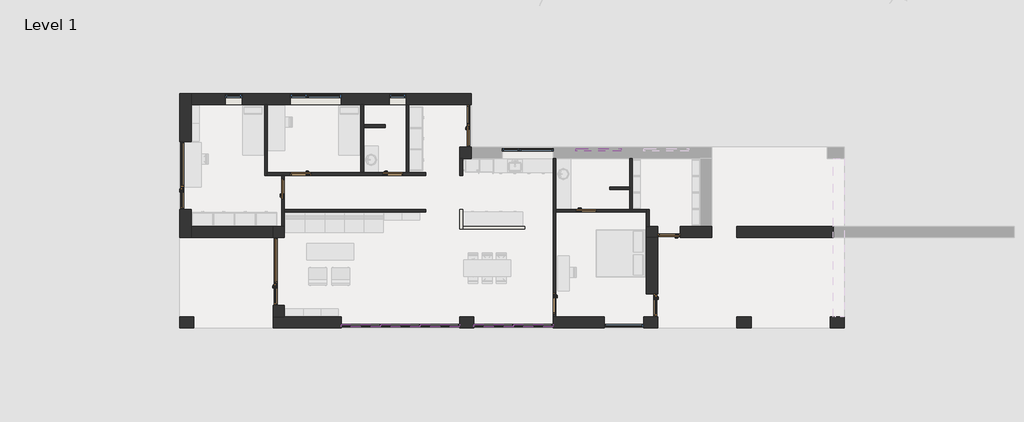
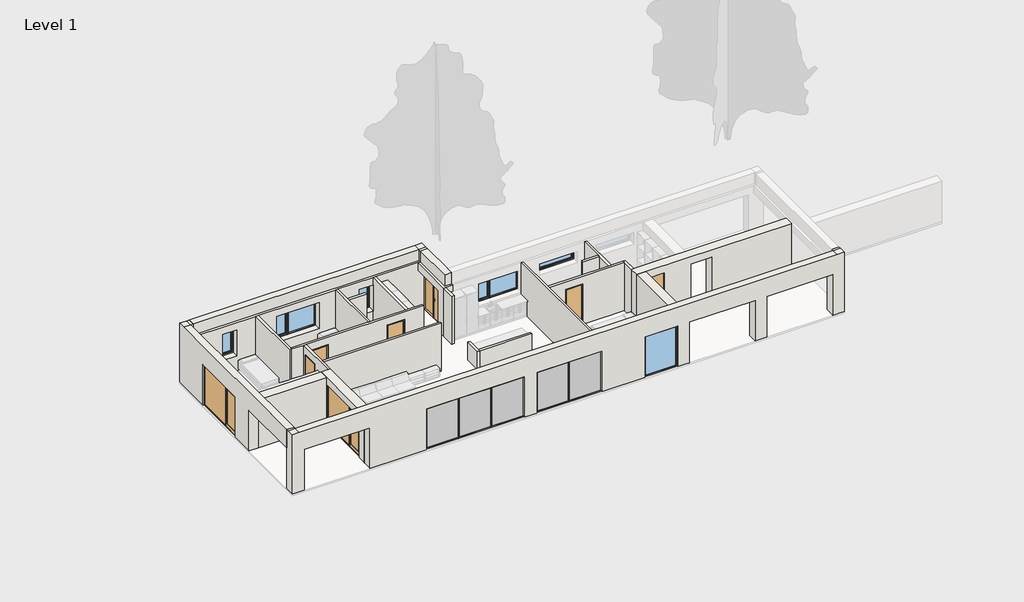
# One storey, part 1 of 2: 23 walls, 17 members, 10 doors, 6 windows, 5 plates.
"""IFC4 building model written with IfcOpenShell, lengths in millimetres."""

from ifc_helpers import new_model, si_unit, origin, origin_with_axes, place, context, project, spatial, polyline, outline, extrude, faceted_brep, transform, mapped, element, save
from components import door_1800x2200_mm_7a9b0269, ext_door_window_assembly_glass_2880x2200_mm_8e24472b, ext_single_flush_out_glass_960x2200_mm_6190eac3, ext_single_flush1_960x2200_mm_7c25dc53, int_single_flush1_900x2200_mm_083ae047, int_single_flush1_900x2200_mm_924e3177, rectangular_mullion_exterior_50x115mm_b31c03e9, rectangular_mullion_exterior_50x115mm_eaa21abb, rectangular_mullion_exterior_50x115mm_593a1a29, system_panel_exterior_glass_22mm_baca3ab9, system_panel_exterior_glass_22mm_266c4f93, fixed_1680x2200_mm_e3bfc0e5, single_light_top_hinged_1920x600_dd11e4f9, single_light_720x1400_mm_50d61ae6, window_assembly_individual_2160x1200_mm_ef5d95c3, window_assembly_individual_2160x1400_mm_9c06a6f2

model = new_model("IFC4")

# Units and contexts
model_context = context("Model", 3, world=origin())
ifc_project = project(units=[si_unit("LENGTHUNIT", "METRE", prefix="MILLI")], contexts=[model_context])

# Site, building, storey
site = spatial("IfcSite", under=ifc_project)
building = spatial("IfcBuilding", under=site)
storey = spatial("IfcBuildingStorey", under=building, Name="Level 1", Elevation=0.0)

# Doors
placement = place(None, origin())
door_1800x2200_mm_shape = door_1800x2200_mm_7a9b0269(model_context)
element("IfcDoor", 1, ObjectType="Ext. Door inw. Window Assembly : 1800x2200 mm", at=placement, inside=storey, context=model_context, shape_type="MappedRepresentation", body=[
    mapped(door_1800x2200_mm_shape, transform((12120.0, 8580.0, 0.0), x_axis=(0.0, -1.0, 0.0), y_axis=(1.0, 0.0, 0.0), z_axis=(0.0, 0.0, 1.0))),
])
ext_door_window_assembly_glass_2880x2200_mm_shape = ext_door_window_assembly_glass_2880x2200_mm_8e24472b(model_context)
element("IfcDoor", 2, ObjectType="Ext. Door Window Assembly - Glass : 2880x2200 mm", at=placement, inside=storey, context=model_context, shape_type="MappedRepresentation", body=[
    mapped(ext_door_window_assembly_glass_2880x2200_mm_shape, transform((4200.0, 2400.0, 0.0), x_axis=(0.0, -1.0, 0.0), y_axis=(1.0, 0.0, 0.0), z_axis=(0.0, 0.0, 1.0))),
])
element("IfcDoor", 3, ObjectType="Ext. Door Window Assembly - Glass : 2880x2200 mm", at=placement, inside=storey, context=model_context, shape_type="MappedRepresentation", body=[
    mapped(ext_door_window_assembly_glass_2880x2200_mm_shape, transform((240.0, 6480.0, 0.0), x_axis=(0.0, -1.0, 0.0), y_axis=(1.0, 0.0, 0.0), z_axis=(0.0, 0.0, 1.0))),
])
ext_single_flush_out_glass_960x2200_mm_shape = ext_single_flush_out_glass_960x2200_mm_6190eac3(model_context)
element("IfcDoor", 4, ObjectType="Ext. Single-Flush out - Glass : 960x2200 mm", at=placement, inside=storey, context=model_context, shape_type="MappedRepresentation", body=[
    mapped(ext_single_flush_out_glass_960x2200_mm_shape, transform((20040.0, 960.0, 0.0), x_axis=(0.0, -1.0, 0.0), y_axis=(1.0, 0.0, 0.0), z_axis=(0.0, 0.0, 1.0))),
])
ext_single_flush1_960x2200_mm_shape = ext_single_flush1_960x2200_mm_7c25dc53(model_context)
element("IfcDoor", 5, ObjectType="Ext. Single-Flush1 : 960x2200 mm", at=placement, inside=storey, context=model_context, shape_type="MappedRepresentation", body=[
    mapped(ext_single_flush1_960x2200_mm_shape, transform((20760.0, 4080.0, 0.0), x_axis=(-1.0, 0.0, 0.0), y_axis=(0.0, -1.0, 0.0), z_axis=(0.0, 0.0, 1.0))),
])
int_single_flush1_900x2200_mm_shape = int_single_flush1_900x2200_mm_083ae047(model_context)
element("IfcDoor", 6, ObjectType="Int. Single-Flush1 : 900x2200 mm", at=placement, inside=storey, context=model_context, shape_type="MappedRepresentation", body=[
    mapped(int_single_flush1_900x2200_mm_shape, transform((4380.0, 5910.0, 0.0), x_axis=(0.0, 1.0, 0.0), y_axis=(-1.0, 0.0, 0.0), z_axis=(0.0, 0.0, 1.0))),
])
element("IfcDoor", 7, ObjectType="Int. Single-Flush1 : 900x2200 mm", at=placement, inside=storey, context=model_context, shape_type="MappedRepresentation", body=[
    mapped(int_single_flush1_900x2200_mm_shape, transform((9030.0, 6540.0, 0.0), x_axis=(1.0, 0.0, 0.0), y_axis=(0.0, 1.0, 0.0), z_axis=(0.0, 0.0, 1.0))),
])
element("IfcDoor", 8, ObjectType="Int. Single-Flush1 : 900x2200 mm", at=placement, inside=storey, context=model_context, shape_type="MappedRepresentation", body=[
    mapped(int_single_flush1_900x2200_mm_shape, transform((17250.0, 4980.0, 0.0), x_axis=(1.0, 0.0, 0.0), y_axis=(0.0, 1.0, 0.0), z_axis=(0.0, 0.0, 1.0))),
])
element("IfcDoor", 9, ObjectType="Int. Single-Flush1 : 900x2200 mm", at=placement, inside=storey, context=model_context, shape_type="MappedRepresentation", body=[
    mapped(int_single_flush1_900x2200_mm_shape, transform((15900.0, 1050.0, 0.0), x_axis=(0.0, -1.0, 0.0), y_axis=(1.0, 0.0, 0.0), z_axis=(0.0, 0.0, 1.0))),
])
int_single_flush1_900x2200_mm_2_shape = int_single_flush1_900x2200_mm_924e3177(model_context)
element("IfcDoor", 10, ObjectType="Int. Single-Flush1 : 900x2200 mm", at=placement, inside=storey, context=model_context, shape_type="MappedRepresentation", body=[
    mapped(int_single_flush1_900x2200_mm_2_shape, transform((5130.0, 6540.0, 0.0), x_axis=(-1.0, 0.0, 0.0), y_axis=(0.0, -1.0, 0.0), z_axis=(0.0, 0.0, 1.0))),
])

# Members
rectangular_mullion_exterior_50x115mm_shape = rectangular_mullion_exterior_50x115mm_b31c03e9(model_context)
element("IfcMember", 11, ObjectType="Rectangular Mullion : Exterior - 50x115mm", at=placement, inside=storey, context=model_context, shape_type="MappedRepresentation", body=[
    mapped(rectangular_mullion_exterior_50x115mm_shape, transform((6840.0, 50.0, 2200.0), x_axis=(0.0, 0.0, 1.0), y_axis=(0.0, 1.0, 0.0), z_axis=(-1.0, 0.0, 0.0))),
])
element("IfcMember", 12, ObjectType="Rectangular Mullion : Exterior - 50x115mm", at=placement, inside=storey, context=model_context, shape_type="MappedRepresentation", body=[
    mapped(rectangular_mullion_exterior_50x115mm_shape, transform((12480.0, 50.0, 2200.0), x_axis=(0.0, 0.0, 1.0), y_axis=(0.0, 1.0, 0.0), z_axis=(-1.0, 0.0, 0.0))),
])
element("IfcMember", 13, ObjectType="Rectangular Mullion : Exterior - 50x115mm", at=placement, inside=storey, context=model_context, shape_type="MappedRepresentation", body=[
    mapped(rectangular_mullion_exterior_50x115mm_shape, transform((11880.0, 50.0, 0.0), x_axis=(0.0, 0.0, -1.0), y_axis=(0.0, 1.0, 0.0), z_axis=(1.0, 0.0, 0.0))),
])
element("IfcMember", 14, ObjectType="Rectangular Mullion : Exterior - 50x115mm", at=placement, inside=storey, context=model_context, shape_type="MappedRepresentation", body=[
    mapped(rectangular_mullion_exterior_50x115mm_shape, transform((15840.0, 50.0, 0.0), x_axis=(0.0, 0.0, -1.0), y_axis=(0.0, 1.0, 0.0), z_axis=(1.0, 0.0, 0.0))),
])
rectangular_mullion_exterior_50x115mm_2_shape = rectangular_mullion_exterior_50x115mm_eaa21abb(model_context)
element("IfcMember", 15, ObjectType="Rectangular Mullion : Exterior - 50x115mm", at=placement, inside=storey, context=model_context, shape_type="MappedRepresentation", body=[
    mapped(rectangular_mullion_exterior_50x115mm_2_shape, transform((8520.0, 50.0, 50.0), x_axis=(-1.0, 0.0, 0.0), y_axis=(0.0, 1.0, 0.0), z_axis=(0.0, 0.0, -1.0))),
])
element("IfcMember", 16, ObjectType="Rectangular Mullion : Exterior - 50x115mm", at=placement, inside=storey, context=model_context, shape_type="MappedRepresentation", body=[
    mapped(rectangular_mullion_exterior_50x115mm_2_shape, transform((10200.0, 50.0, 50.0), x_axis=(-1.0, 0.0, 0.0), y_axis=(0.0, 1.0, 0.0), z_axis=(0.0, 0.0, -1.0))),
])
element("IfcMember", 17, ObjectType="Rectangular Mullion : Exterior - 50x115mm", at=placement, inside=storey, context=model_context, shape_type="MappedRepresentation", body=[
    mapped(rectangular_mullion_exterior_50x115mm_2_shape, transform((14160.0, 50.0, 50.0), x_axis=(-1.0, 0.0, 0.0), y_axis=(0.0, 1.0, 0.0), z_axis=(0.0, 0.0, -1.0))),
])
element("IfcMember", 18, ObjectType="Rectangular Mullion : Exterior - 50x115mm", at=placement, inside=storey, context=model_context, shape_type="MappedRepresentation", body=[
    mapped(rectangular_mullion_exterior_50x115mm_shape, transform((8520.0, 50.0, 0.0), x_axis=(0.0, 0.0, -1.0), y_axis=(0.0, 1.0, 0.0), z_axis=(1.0, 0.0, 0.0))),
])
element("IfcMember", 19, ObjectType="Rectangular Mullion : Exterior - 50x115mm", at=placement, inside=storey, context=model_context, shape_type="MappedRepresentation", body=[
    mapped(rectangular_mullion_exterior_50x115mm_shape, transform((14160.0, 50.0, 0.0), x_axis=(0.0, 0.0, -1.0), y_axis=(0.0, 1.0, 0.0), z_axis=(1.0, 0.0, 0.0))),
])
element("IfcMember", 20, ObjectType="Rectangular Mullion : Exterior - 50x115mm", at=placement, inside=storey, context=model_context, shape_type="MappedRepresentation", body=[
    mapped(rectangular_mullion_exterior_50x115mm_shape, transform((10200.0, 50.0, 0.0), x_axis=(0.0, 0.0, -1.0), y_axis=(0.0, 1.0, 0.0), z_axis=(1.0, 0.0, 0.0))),
])
element("IfcMember", 21, ObjectType="Rectangular Mullion : Exterior - 50x115mm", at=placement, inside=storey, context=model_context, shape_type="MappedRepresentation", body=[
    mapped(rectangular_mullion_exterior_50x115mm_shape, transform((8520.0, 50.0, 2200.0), x_axis=(0.0, 0.0, 1.0), y_axis=(0.0, 1.0, 0.0), z_axis=(-1.0, 0.0, 0.0))),
])
element("IfcMember", 22, ObjectType="Rectangular Mullion : Exterior - 50x115mm", at=placement, inside=storey, context=model_context, shape_type="MappedRepresentation", body=[
    mapped(rectangular_mullion_exterior_50x115mm_shape, transform((10200.0, 50.0, 2200.0), x_axis=(0.0, 0.0, 1.0), y_axis=(0.0, 1.0, 0.0), z_axis=(-1.0, 0.0, 0.0))),
])
element("IfcMember", 23, ObjectType="Rectangular Mullion : Exterior - 50x115mm", at=placement, inside=storey, context=model_context, shape_type="MappedRepresentation", body=[
    mapped(rectangular_mullion_exterior_50x115mm_shape, transform((14160.0, 50.0, 2200.0), x_axis=(0.0, 0.0, 1.0), y_axis=(0.0, 1.0, 0.0), z_axis=(-1.0, 0.0, 0.0))),
])
rectangular_mullion_exterior_50x115mm_3_shape = rectangular_mullion_exterior_50x115mm_593a1a29(model_context)
element("IfcMember", 24, ObjectType="Rectangular Mullion : Exterior - 50x115mm", at=placement, inside=storey, context=model_context, shape_type="MappedRepresentation", body=[
    mapped(rectangular_mullion_exterior_50x115mm_3_shape, transform((11880.0, 50.0, 2150.0), x_axis=(1.0, 0.0, 0.0), y_axis=(0.0, 1.0, 0.0), z_axis=(0.0, 0.0, 1.0))),
])
element("IfcMember", 25, ObjectType="Rectangular Mullion : Exterior - 50x115mm", at=placement, inside=storey, context=model_context, shape_type="MappedRepresentation", body=[
    mapped(rectangular_mullion_exterior_50x115mm_3_shape, transform((15840.0, 50.0, 2150.0), x_axis=(1.0, 0.0, 0.0), y_axis=(0.0, 1.0, 0.0), z_axis=(0.0, 0.0, 1.0))),
])
element("IfcMember", 26, ObjectType="Rectangular Mullion : Exterior - 50x115mm", at=placement, inside=storey, context=model_context, shape_type="MappedRepresentation", body=[
    mapped(rectangular_mullion_exterior_50x115mm_3_shape, transform((6840.0, 50.0, 50.0), x_axis=(-1.0, 0.0, 0.0), y_axis=(0.0, 1.0, 0.0), z_axis=(0.0, 0.0, -1.0))),
])
element("IfcMember", 27, ObjectType="Rectangular Mullion : Exterior - 50x115mm", at=placement, inside=storey, context=model_context, shape_type="MappedRepresentation", body=[
    mapped(rectangular_mullion_exterior_50x115mm_3_shape, transform((12480.0, 50.0, 50.0), x_axis=(-1.0, 0.0, 0.0), y_axis=(0.0, 1.0, 0.0), z_axis=(0.0, 0.0, -1.0))),
])

# Plates
system_panel_exterior_glass_22mm_shape = system_panel_exterior_glass_22mm_baca3ab9(model_context)
element("IfcPlate", 28, ObjectType="System Panel : Exterior - Glass 22mm", at=placement, inside=storey, context=model_context, shape_type="MappedRepresentation", body=[
    mapped(system_panel_exterior_glass_22mm_shape, transform((11027.5, 50.0, 50.0), x_axis=(-1.0, 0.0, 0.0), y_axis=(0.0, -1.0, 0.0), z_axis=(0.0, 0.0, 1.0))),
])
element("IfcPlate", 29, ObjectType="System Panel : Exterior - Glass 22mm", at=placement, inside=storey, context=model_context, shape_type="MappedRepresentation", body=[
    mapped(system_panel_exterior_glass_22mm_shape, transform((7692.5, 50.0, 50.0), x_axis=(-1.0, 0.0, 0.0), y_axis=(0.0, -1.0, 0.0), z_axis=(0.0, 0.0, 1.0))),
])
element("IfcPlate", 30, ObjectType="System Panel : Exterior - Glass 22mm", at=placement, inside=storey, context=model_context, shape_type="MappedRepresentation", body=[
    mapped(system_panel_exterior_glass_22mm_shape, transform((14987.5, 50.0, 50.0), x_axis=(-1.0, 0.0, 0.0), y_axis=(0.0, -1.0, 0.0), z_axis=(0.0, 0.0, 1.0))),
])
element("IfcPlate", 31, ObjectType="System Panel : Exterior - Glass 22mm", at=placement, inside=storey, context=model_context, shape_type="MappedRepresentation", body=[
    mapped(system_panel_exterior_glass_22mm_shape, transform((13332.5, 50.0, 50.0), x_axis=(-1.0, 0.0, 0.0), y_axis=(0.0, -1.0, 0.0), z_axis=(0.0, 0.0, 1.0))),
])
system_panel_exterior_glass_22mm_2_shape = system_panel_exterior_glass_22mm_266c4f93(model_context)
element("IfcPlate", 32, ObjectType="System Panel : Exterior - Glass 22mm", at=placement, inside=storey, context=model_context, shape_type="MappedRepresentation", body=[
    mapped(system_panel_exterior_glass_22mm_2_shape, transform((9360.0, 50.0, 50.0), x_axis=(-1.0, 0.0, 0.0), y_axis=(0.0, -1.0, 0.0), z_axis=(0.0, 0.0, 1.0))),
])

# Walls
element("IfcWall", 33, ObjectType="Generic - 120mm (Interior)", at=placement, inside=storey, context=model_context, shape_type="Brep", body=[
    faceted_brep([(3600.0, 9480.0, 0.0), (3600.0, 6480.0, 0.0), (3600.0, 6480.0, 2600.0), (3600.0, 9480.0, 2600.0), (3720.0, 9480.0, 0.0), (3720.0, 9480.0, 2600.0), (3720.0, 6600.0, 2600.0), (3720.0, 6480.0, 2600.0), (3720.0, 6480.0, 0.0), (3720.0, 6600.0, 0.0)], [[[0, 1, 2, 3]], [[4, 5, 6, 7, 8, 9]], [[1, 0, 4, 9, 8]], [[2, 1, 8, 7]], [[0, 3, 5, 4]], [[3, 2, 7, 6, 5]]]),
])
element("IfcWall", 34, ObjectType="Generic - 120mm (Interior)", at=placement, inside=storey, context=model_context, shape_type="Brep", body=[
    faceted_brep([(10440.0, 6480.0, 0.0), (10440.0, 6480.0, 2600.0), (4440.0, 6480.0, 2600.0), (4320.0, 6480.0, 2600.0), (3720.0, 6480.0, 2600.0), (3720.0, 6480.0, 0.0), (4320.0, 6480.0, 0.0), (4440.0, 6480.0, 0.0), (4680.0, 6480.0, 0.0), (4680.0, 6480.0, 2200.0), (5580.0, 6480.0, 2200.0), (5580.0, 6480.0, 0.0), (8580.0, 6480.0, 0.0), (8580.0, 6480.0, 2200.0), (9480.0, 6480.0, 2200.0), (9480.0, 6480.0, 0.0), (10440.0, 6600.0, 2600.0), (10440.0, 6600.0, 0.0), (9720.0, 6600.0, 0.0), (9600.0, 6600.0, 0.0), (9480.0, 6600.0, 0.0), (9480.0, 6600.0, 2200.0), (8580.0, 6600.0, 2200.0), (8580.0, 6600.0, 0.0), (7800.0, 6600.0, 0.0), (7680.0, 6600.0, 0.0), (5580.0, 6600.0, 0.0), (5580.0, 6600.0, 2200.0), (4680.0, 6600.0, 2200.0), (4680.0, 6600.0, 0.0), (3720.0, 6600.0, 0.0), (3720.0, 6600.0, 2600.0), (7680.0, 6600.0, 2600.0), (7800.0, 6600.0, 2600.0), (9600.0, 6600.0, 2600.0), (9720.0, 6600.0, 2600.0)], [[[0, 1, 2, 3, 4, 5, 6, 7, 8, 9, 10, 11, 12, 13, 14, 15]], [[16, 17, 18, 19, 20, 21, 22, 23, 24, 25, 26, 27, 28, 29, 30, 31, 32, 33, 34, 35]], [[17, 0, 15, 20, 19, 18]], [[5, 30, 29, 8, 7, 6]], [[23, 12, 11, 26, 25, 24]], [[1, 0, 17, 16]], [[5, 4, 31, 30]], [[14, 21, 20, 15]], [[21, 14, 13, 22]], [[22, 13, 12, 23]], [[28, 9, 8, 29]], [[9, 28, 27, 10]], [[10, 27, 26, 11]], [[4, 3, 2, 1, 16, 35, 34, 33, 32, 31]]]),
])
element("IfcWall", 35, ObjectType="Generic - 120mm (Interior)", at=placement, inside=storey, context=model_context, shape_type="Brep", body=[
    faceted_brep([(4440.0, 6480.0, 0.0), (4440.0, 6480.0, 2600.0), (4440.0, 5040.0, 2600.0), (4440.0, 4920.0, 2600.0), (4440.0, 4320.0, 2600.0), (4440.0, 4320.0, 0.0), (4440.0, 4920.0, 0.0), (4440.0, 5040.0, 0.0), (4440.0, 5460.0, 0.0), (4440.0, 5460.0, 2200.0), (4440.0, 6360.0, 2200.0), (4440.0, 6360.0, 0.0), (4320.0, 6480.0, 2600.0), (4320.0, 6480.0, 0.0), (4320.0, 6360.0, 0.0), (4320.0, 6360.0, 2200.0), (4320.0, 5460.0, 2200.0), (4320.0, 5460.0, 0.0), (4320.0, 4320.0, 0.0), (4320.0, 4320.0, 2600.0)], [[[0, 1, 2, 3, 4, 5, 6, 7, 8, 9, 10, 11]], [[12, 13, 14, 15, 16, 17, 18, 19]], [[13, 0, 11, 14]], [[5, 18, 17, 8, 7, 6]], [[1, 0, 13, 12]], [[5, 4, 19, 18]], [[10, 15, 14, 11]], [[15, 10, 9, 16]], [[16, 9, 8, 17]], [[4, 3, 2, 1, 12, 19]]]),
])
element("IfcWall", 36, ObjectType="Generic - 120mm (Interior)", at=placement, inside=storey, context=model_context, shape_type="Brep", body=[
    faceted_brep([(7800.0, 6600.0, 0.0), (7800.0, 8520.0, 0.0), (7800.0, 8640.0, 0.0), (7800.0, 9480.0, 0.0), (7800.0, 9480.0, 2600.0), (7800.0, 8640.0, 2600.0), (7800.0, 8520.0, 2600.0), (7800.0, 6600.0, 2600.0), (7680.0, 6600.0, 0.0), (7680.0, 6600.0, 2600.0), (7680.0, 9480.0, 2600.0), (7680.0, 9480.0, 0.0)], [[[0, 1, 2, 3, 4, 5, 6, 7]], [[8, 9, 10, 11]], [[3, 2, 1, 0, 8, 11]], [[0, 7, 9, 8]], [[4, 3, 11, 10]], [[7, 6, 5, 4, 10, 9]]]),
])
element("IfcWall", 37, ObjectType="Generic - 120mm (Interior)", at=placement, inside=storey, context=model_context, shape_type="Brep", body=[
    faceted_brep([(9720.0, 6600.0, 0.0), (9720.0, 9480.0, 0.0), (9720.0, 9480.0, 2600.0), (9720.0, 6600.0, 2600.0), (9600.0, 6600.0, 0.0), (9600.0, 6600.0, 2600.0), (9600.0, 9480.0, 2600.0), (9600.0, 9480.0, 2200.0), (9600.0, 9480.0, 800.0), (9600.0, 9480.0, 0.0)], [[[0, 1, 2, 3]], [[4, 5, 6, 7, 8, 9]], [[1, 0, 4, 9]], [[0, 3, 5, 4]], [[2, 1, 9, 8, 7, 6]], [[3, 2, 6, 5]]]),
])
element("IfcWall", 38, ObjectType="Generic - 120mm (Interior)", at=placement, inside=storey, context=model_context, shape_type="Brep", body=[
    faceted_brep([(15960.0, 7200.0, 0.0), (15960.0, 7200.0, 2600.0), (15960.0, 5040.0, 2600.0), (15960.0, 4920.0, 2600.0), (15960.0, 480.0, 2600.0), (15960.0, 480.0, 0.0), (15960.0, 600.0, 0.0), (15960.0, 600.0, 2200.0), (15960.0, 1500.0, 2200.0), (15960.0, 1500.0, 0.0), (15960.0, 4920.0, 0.0), (15960.0, 5040.0, 0.0), (15840.0, 7200.0, 2600.0), (15840.0, 7200.0, 2200.0), (15840.0, 7200.0, 1000.0), (15840.0, 7200.0, 0.0), (15840.0, 1500.0, 0.0), (15840.0, 1500.0, 2200.0), (15840.0, 600.0, 2200.0), (15840.0, 600.0, 0.0), (15840.0, 480.0, 0.0), (15840.0, 480.0, 2200.0), (15840.0, 480.0, 2600.0)], [[[0, 1, 2, 3, 4, 5, 6, 7, 8, 9, 10, 11]], [[12, 13, 14, 15, 16, 17, 18, 19, 20, 21, 22]], [[5, 20, 19, 6]], [[15, 0, 11, 10, 9, 16]], [[1, 0, 15, 14, 13, 12]], [[5, 4, 22, 21, 20]], [[18, 7, 6, 19]], [[7, 18, 17, 8]], [[8, 17, 16, 9]], [[4, 3, 2, 1, 12, 22]]]),
])
element("IfcWall", 39, ObjectType="Generic - 120mm (Interior)", at=placement, inside=storey, context=model_context, shape_type="Brep", body=[
    faceted_brep([(19920.0, 4320.0, 0.0), (19920.0, 5040.0, 0.0), (19920.0, 5040.0, 2600.0), (19920.0, 4320.0, 2600.0), (19800.0, 4320.0, 0.0), (19800.0, 4320.0, 2600.0), (19800.0, 4920.0, 2600.0), (19800.0, 5040.0, 2600.0), (19800.0, 5040.0, 0.0), (19800.0, 4920.0, 0.0)], [[[0, 1, 2, 3]], [[4, 5, 6, 7, 8, 9]], [[1, 0, 4, 9, 8]], [[2, 1, 8, 7]], [[0, 3, 5, 4]], [[3, 2, 7, 6, 5]]]),
])
element("IfcWall", 40, ObjectType="Generic - 120mm (Interior)", at=placement, inside=storey, context=model_context, shape_type="Brep", body=[
    faceted_brep([(19800.0, 5040.0, 2600.0), (19800.0, 5040.0, 0.0), (19200.0, 5040.0, 0.0), (19080.0, 5040.0, 0.0), (17700.0, 5040.0, 0.0), (17700.0, 5040.0, 2200.0), (16800.0, 5040.0, 2200.0), (16800.0, 5040.0, 0.0), (15960.0, 5040.0, 0.0), (15960.0, 5040.0, 2600.0), (19080.0, 5040.0, 2600.0), (19200.0, 5040.0, 2600.0), (19800.0, 4920.0, 0.0), (19800.0, 4920.0, 2600.0), (15960.0, 4920.0, 2600.0), (15960.0, 4920.0, 0.0), (16800.0, 4920.0, 0.0), (16800.0, 4920.0, 2200.0), (17700.0, 4920.0, 2200.0), (17700.0, 4920.0, 0.0)], [[[0, 1, 2, 3, 4, 5, 6, 7, 8, 9, 10, 11]], [[12, 13, 14, 15, 16, 17, 18, 19]], [[1, 12, 19, 4, 3, 2]], [[15, 8, 7, 16]], [[1, 0, 13, 12]], [[9, 8, 15, 14]], [[18, 5, 4, 19]], [[5, 18, 17, 6]], [[6, 17, 16, 7]], [[0, 11, 10, 9, 14, 13]]]),
])
element("IfcWall", 41, ObjectType="Generic - 120mm (Interior)", at=placement, inside=storey, context=model_context, shape_type="Brep", body=[
    faceted_brep([(19200.0, 5040.0, 0.0), (19200.0, 7200.0, 0.0), (19200.0, 7200.0, 2600.0), (19200.0, 5040.0, 2600.0), (19080.0, 5040.0, 0.0), (19080.0, 5040.0, 2600.0), (19080.0, 5880.0, 2600.0), (19080.0, 6000.0, 2600.0), (19080.0, 7200.0, 2600.0), (19080.0, 7200.0, 0.0), (19080.0, 6000.0, 0.0), (19080.0, 5880.0, 0.0)], [[[0, 1, 2, 3]], [[4, 5, 6, 7, 8, 9, 10, 11]], [[1, 0, 4, 11, 10, 9]], [[0, 3, 5, 4]], [[2, 1, 9, 8]], [[3, 2, 8, 7, 6, 5]]]),
])
element("IfcWall", 42, ObjectType="Generic - 120mm (Interior)", at=placement, inside=storey, context=model_context, shape_type="SweptSolid", body=[
    extrude(outline(polyline([(18240.0, 6000.0), (19080.0, 6000.0), (19080.0, 5880.0), (18240.0, 5880.0), (18240.0, 6000.0)])), origin_with_axes(), (0.0, 0.0, 1.0), 2600.0),
])
element("IfcWall", 43, ObjectType="Generic - 120mm (Interior)", at=placement, inside=storey, context=model_context, shape_type="SweptSolid", body=[
    extrude(outline(polyline([(8720.0, 8520.0), (7800.0, 8520.0), (7800.0, 8640.0), (8720.0, 8640.0), (8720.0, 8520.0)])), origin_with_axes(), (0.0, 0.0, 1.0), 2600.0),
])
element("IfcWall", 44, ObjectType="Generic - 120mm (Interior)", at=placement, inside=storey, context=model_context, shape_type="SweptSolid", body=[
    extrude(outline(polyline([(10440.0, 4920.0), (4440.0, 4920.0), (4440.0, 5040.0), (10440.0, 5040.0), (10440.0, 4920.0)])), origin_with_axes(), (0.0, 0.0, 1.0), 2600.0),
])
element("IfcWall", 45, ObjectType="Generic - 120mm (Interior)", at=placement, inside=storey, context=model_context, shape_type="Brep", body=[
    faceted_brep([(11880.0, 5040.0, 0.0), (11880.0, 4200.0, 0.0), (11880.0, 4200.0, 1000.0), (11880.0, 5040.0, 1000.0), (12000.0, 5040.0, 0.0), (12000.0, 5040.0, 1000.0), (12000.0, 4320.0, 1000.0), (12000.0, 4200.0, 1000.0), (12000.0, 4200.0, 0.0), (12000.0, 4320.0, 0.0)], [[[0, 1, 2, 3]], [[4, 5, 6, 7, 8, 9]], [[1, 0, 4, 9, 8]], [[3, 2, 7, 6, 5]], [[0, 3, 5, 4]], [[2, 1, 8, 7]]]),
])
element("IfcWall", 46, ObjectType="Generic - 120mm (Interior)", at=placement, inside=storey, context=model_context, shape_type="SweptSolid", body=[
    extrude(outline(polyline([(14640.0, 4200.0), (12000.0, 4200.0), (12000.0, 4320.0), (14640.0, 4320.0), (14640.0, 4200.0)])), origin_with_axes(), (0.0, 0.0, 1.0), 1000.0),
])
element("IfcWall", 47, ObjectType="Generic - 120mm (Interior)", at=placement, inside=storey, context=model_context, shape_type="SweptSolid", body=[
    extrude(outline(polyline([(11880.0, 6480.0), (11880.0, 7200.0), (12000.0, 7200.0), (12000.0, 6480.0), (11880.0, 6480.0)])), origin_with_axes(), (0.0, 0.0, 1.0), 2600.0),
])
element("IfcWall", 48, ObjectType="Generic - 480mm (Exterior)", at=placement, inside=storey, context=model_context, shape_type="Brep", body=[
    faceted_brep([(480.0, 9960.0, 0.0), (480.0, 9960.0, 3200.0), (480.0, 9600.0, 3200.0), (480.0, 9600.0, 2600.0), (480.0, 9480.0, 2600.0), (480.0, 4320.0, 2600.0), (480.0, 3840.0, 2600.0), (480.0, 480.0, 2600.0), (480.0, 480.0, 2200.0), (480.0, 3840.0, 2200.0), (480.0, 3840.0, 0.0), (480.0, 4320.0, 0.0), (480.0, 5040.0, 0.0), (480.0, 5040.0, 2200.0), (480.0, 7920.0, 2200.0), (480.0, 7920.0, 0.0), (480.0, 9480.0, 0.0), (0.0, 9960.0, 3200.0), (0.0, 9960.0, 0.0), (0.0, 7920.0, 0.0), (0.0, 7920.0, 2200.0), (0.0, 5040.0, 2200.0), (0.0, 5040.0, 0.0), (0.0, 3840.0, 0.0), (0.0, 3840.0, 2200.0), (0.0, 480.0, 2200.0), (0.0, 480.0, 3200.0), (0.0, 9600.0, 3200.0), (360.0, 9960.0, 3200.0), (360.0, 480.0, 2600.0), (360.0, 480.0, 3200.0), (360.0, 9600.0, 3200.0), (360.0, 9600.0, 2600.0)], [[[0, 1, 2, 3, 4, 5, 6, 7, 8, 9, 10, 11, 12, 13, 14, 15, 16]], [[17, 18, 19, 20, 21, 22, 23, 24, 25, 26, 27]], [[1, 0, 18, 17, 28]], [[21, 13, 12, 22]], [[13, 21, 20, 14]], [[14, 20, 19, 15]], [[18, 0, 16, 15, 19]], [[10, 23, 22, 12, 11]], [[9, 8, 25, 24]], [[10, 9, 24, 23]], [[8, 7, 29, 30, 26, 25]], [[3, 2, 31, 32]], [[27, 26, 30, 31]], [[31, 30, 29, 32]], [[2, 1, 28, 31]], [[17, 27, 31, 28]], [[3, 32, 29, 7, 6, 5, 4]]]),
])
element("IfcWall", 49, ObjectType="Generic - 480mm (Exterior)", at=placement, inside=storey, context=model_context, shape_type="Brep", body=[
    faceted_brep([(480.0, 9480.0, 0.0), (3600.0, 9480.0, 0.0), (3720.0, 9480.0, 0.0), (7680.0, 9480.0, 0.0), (7800.0, 9480.0, 0.0), (9600.0, 9480.0, 0.0), (9720.0, 9480.0, 0.0), (12360.0, 9480.0, 0.0), (12360.0, 9480.0, 2200.0), (12360.0, 9480.0, 3200.0), (12000.0, 9480.0, 3200.0), (12000.0, 9480.0, 2600.0), (11880.0, 9480.0, 2600.0), (9720.0, 9480.0, 2600.0), (9600.0, 9480.0, 2600.0), (7800.0, 9480.0, 2600.0), (7680.0, 9480.0, 2600.0), (3720.0, 9480.0, 2600.0), (3600.0, 9480.0, 2600.0), (480.0, 9480.0, 2600.0), (8880.0, 9480.0, 800.0), (8880.0, 9480.0, 2200.0), (9600.0, 9480.0, 2200.0), (9600.0, 9480.0, 800.0), (6840.0, 9480.0, 2200.0), (6840.0, 9480.0, 800.0), (4680.0, 9480.0, 800.0), (4680.0, 9480.0, 2200.0), (1920.0, 9480.0, 800.0), (1920.0, 9480.0, 2200.0), (2640.0, 9480.0, 2200.0), (2640.0, 9480.0, 800.0), (12360.0, 9960.0, 0.0), (480.0, 9960.0, 0.0), (480.0, 9960.0, 3200.0), (12000.0, 9960.0, 3200.0), (12360.0, 9960.0, 3200.0), (8880.0, 9960.0, 2200.0), (8880.0, 9960.0, 800.0), (9600.0, 9960.0, 800.0), (9600.0, 9960.0, 2200.0), (6840.0, 9960.0, 800.0), (6840.0, 9960.0, 2200.0), (4680.0, 9960.0, 2200.0), (4680.0, 9960.0, 800.0), (1920.0, 9960.0, 2200.0), (1920.0, 9960.0, 800.0), (2640.0, 9960.0, 800.0), (2640.0, 9960.0, 2200.0), (480.0, 9600.0, 2600.0), (480.0, 9600.0, 3200.0), (12360.0, 9600.0, 3200.0), (12000.0, 9600.0, 2600.0), (12000.0, 9600.0, 3200.0)], [[[0, 1, 2, 3, 4, 5, 6, 7, 8, 9, 10, 11, 12, 13, 14, 15, 16, 17, 18, 19], [20, 21, 22, 23], [24, 25, 26, 27], [28, 29, 30, 31]], [[32, 33, 34, 35, 36], [37, 38, 39, 40], [41, 42, 43, 44], [45, 46, 47, 48]], [[7, 6, 5, 4, 3, 2, 1, 0, 33, 32]], [[0, 19, 49, 50, 34, 33]], [[9, 8, 7, 32, 36, 51]], [[20, 38, 37, 21]], [[39, 23, 22, 40]], [[38, 20, 23, 39]], [[41, 25, 24, 42]], [[43, 27, 26, 44]], [[25, 41, 44, 26]], [[28, 46, 45, 29]], [[47, 31, 30, 48]], [[46, 28, 31, 47]], [[40, 22, 21, 37]], [[27, 43, 42, 24]], [[48, 30, 29, 45]], [[50, 49, 52, 53]], [[9, 51, 53, 10]], [[10, 53, 52, 11]], [[34, 50, 53, 35]], [[51, 36, 35, 53]], [[19, 18, 17, 16, 15, 14, 13, 12, 11, 52, 49]]]),
])
element("IfcWall", 50, ObjectType="Generic - 480mm (Exterior)", at=placement, inside=storey, context=model_context, shape_type="Brep", body=[
    faceted_brep([(11880.0, 7200.0, 0.0), (11880.0, 7200.0, 2600.0), (11880.0, 9480.0, 2600.0), (11880.0, 9480.0, 2200.0), (11880.0, 7680.0, 2200.0), (11880.0, 7680.0, 0.0), (12360.0, 7200.0, 2600.0), (12360.0, 7200.0, 0.0), (12360.0, 7680.0, 0.0), (12360.0, 7680.0, 2200.0), (12360.0, 9480.0, 2200.0), (12360.0, 9480.0, 3200.0), (12360.0, 7680.0, 3200.0), (12360.0, 7320.0, 3200.0), (12360.0, 7320.0, 2600.0), (12000.0, 9480.0, 3200.0), (12000.0, 9480.0, 2600.0), (12000.0, 7200.0, 2600.0), (12000.0, 7320.0, 2600.0), (12000.0, 7320.0, 3200.0)], [[[0, 1, 2, 3, 4, 5]], [[6, 7, 8, 9, 10, 11, 12, 13, 14]], [[7, 0, 5, 8]], [[15, 11, 10, 3, 2, 16]], [[4, 9, 8, 5]], [[9, 4, 3, 10]], [[1, 0, 7, 6, 17]], [[15, 16, 18, 19]], [[11, 15, 19, 13, 12]], [[13, 19, 18, 14]], [[16, 2, 1, 17, 6, 14, 18]]]),
])
element("IfcWall", 51, ObjectType="Generic - 480mm (Exterior)", at=placement, inside=storey, context=model_context, shape_type="Brep", body=[
    faceted_brep([(28200.0, 480.0, 0.0), (27600.0, 480.0, 0.0), (27600.0, 480.0, 2200.0), (24240.0, 480.0, 2200.0), (24240.0, 480.0, 0.0), (23640.0, 480.0, 0.0), (23640.0, 480.0, 2200.0), (20280.0, 480.0, 2200.0), (20280.0, 480.0, 0.0), (19680.0, 480.0, 0.0), (19680.0, 480.0, 2200.0), (18000.0, 480.0, 2200.0), (18000.0, 480.0, 0.0), (15960.0, 480.0, 0.0), (15840.0, 480.0, 0.0), (15840.0, 480.0, 2200.0), (12480.0, 480.0, 2200.0), (12480.0, 480.0, 0.0), (11880.0, 480.0, 0.0), (11880.0, 480.0, 2200.0), (6840.0, 480.0, 2200.0), (6840.0, 480.0, 0.0), (4440.0, 480.0, 0.0), (3960.0, 480.0, 0.0), (3960.0, 480.0, 2200.0), (600.0, 480.0, 2200.0), (600.0, 480.0, 0.0), (0.0, 480.0, 0.0), (0.0, 480.0, 2200.0), (0.0, 480.0, 3200.0), (360.0, 480.0, 3200.0), (360.0, 480.0, 2600.0), (480.0, 480.0, 2600.0), (3960.0, 480.0, 2600.0), (4440.0, 480.0, 2600.0), (15840.0, 480.0, 2600.0), (15960.0, 480.0, 2600.0), (19800.0, 480.0, 2600.0), (20280.0, 480.0, 2600.0), (27720.0, 480.0, 2600.0), (27840.0, 480.0, 2600.0), (27840.0, 480.0, 3200.0), (28200.0, 480.0, 3200.0), (28200.0, 480.0, 2200.0), (27600.0, 0.0, 0.0), (28200.0, 0.0, 0.0), (28200.0, 0.0, 3200.0), (27840.0, 0.0, 3200.0), (360.0, 0.0, 3200.0), (0.0, 0.0, 3200.0), (0.0, 0.0, 0.0), (600.0, 0.0, 0.0), (600.0, 0.0, 2200.0), (3960.0, 0.0, 2200.0), (3960.0, 0.0, 0.0), (6840.0, 0.0, 0.0), (6840.0, 0.0, 2200.0), (11880.0, 0.0, 2200.0), (11880.0, 0.0, 0.0), (12480.0, 0.0, 0.0), (12480.0, 0.0, 2200.0), (15840.0, 0.0, 2200.0), (15840.0, 0.0, 0.0), (18000.0, 0.0, 0.0), (18000.0, 0.0, 2200.0), (19680.0, 0.0, 2200.0), (19680.0, 0.0, 0.0), (20280.0, 0.0, 0.0), (20280.0, 0.0, 2200.0), (23640.0, 0.0, 2200.0), (23640.0, 0.0, 0.0), (24240.0, 0.0, 0.0), (24240.0, 0.0, 2200.0), (27600.0, 0.0, 2200.0), (28200.0, 360.0, 3200.0), (0.0, 360.0, 3200.0), (27840.0, 360.0, 2600.0), (27840.0, 360.0, 3200.0), (360.0, 360.0, 2600.0), (360.0, 360.0, 3200.0)], [[[0, 1, 2, 3, 4, 5, 6, 7, 8, 9, 10, 11, 12, 13, 14, 15, 16, 17, 18, 19, 20, 21, 22, 23, 24, 25, 26, 27, 28, 29, 30, 31, 32, 33, 34, 35, 36, 37, 38, 39, 40, 41, 42, 43]], [[44, 45, 46, 47, 48, 49, 50, 51, 52, 53, 54, 55, 56, 57, 58, 59, 60, 61, 62, 63, 64, 65, 66, 67, 68, 69, 70, 71, 72, 73]], [[65, 10, 9, 66]], [[10, 65, 64, 11]], [[11, 64, 63, 12]], [[57, 19, 18, 58]], [[19, 57, 56, 20]], [[20, 56, 55, 21]], [[61, 15, 14, 62]], [[15, 61, 60, 16]], [[16, 60, 59, 17]], [[1, 0, 45, 44]], [[2, 1, 44, 73]], [[3, 2, 73, 72]], [[4, 3, 72, 71]], [[5, 4, 71, 70]], [[6, 5, 70, 69]], [[7, 6, 69, 68]], [[9, 8, 67, 66]], [[12, 63, 62, 14, 13]], [[58, 18, 17, 59]], [[23, 22, 21, 55, 54]], [[25, 24, 53, 52]], [[26, 25, 52, 51]], [[27, 26, 51, 50]], [[24, 23, 54, 53]], [[8, 7, 68, 67]], [[0, 43, 42, 74, 46, 45]], [[29, 28, 27, 50, 49, 75]], [[41, 40, 76, 77]], [[77, 76, 78, 79]], [[42, 41, 77, 74]], [[47, 46, 74, 77]], [[29, 75, 79, 30]], [[30, 79, 78, 31]], [[77, 79, 48, 47]], [[75, 49, 48, 79]], [[76, 40, 39, 38, 37, 36, 35, 34, 33, 32, 31, 78]]]),
])
element("IfcWall", 52, ObjectType="Generic - 480mm (Exterior)", at=placement, inside=storey, context=model_context, shape_type="Brep", body=[
    faceted_brep([(4440.0, 4320.0, 0.0), (4440.0, 4320.0, 2600.0), (4440.0, 480.0, 2600.0), (4440.0, 480.0, 0.0), (4440.0, 960.0, 0.0), (4440.0, 960.0, 2200.0), (4440.0, 3840.0, 2200.0), (4440.0, 3840.0, 0.0), (3960.0, 4320.0, 2600.0), (3960.0, 4320.0, 0.0), (3960.0, 3840.0, 0.0), (3960.0, 3840.0, 2200.0), (3960.0, 960.0, 2200.0), (3960.0, 960.0, 0.0), (3960.0, 480.0, 0.0), (3960.0, 480.0, 2200.0), (3960.0, 480.0, 2600.0), (3960.0, 3840.0, 2600.0), (4320.0, 4320.0, 0.0), (4320.0, 4320.0, 2600.0)], [[[0, 1, 2, 3, 4, 5, 6, 7]], [[8, 9, 10, 11, 12, 13, 14, 15, 16, 17]], [[9, 18, 0, 7, 10]], [[3, 14, 13, 4]], [[1, 0, 18, 9, 8, 19]], [[12, 5, 4, 13]], [[5, 12, 11, 6]], [[6, 11, 10, 7]], [[14, 3, 2, 16, 15]], [[16, 2, 1, 19, 8, 17]]]),
])
element("IfcWall", 53, ObjectType="Generic - 480mm (Exterior)", at=placement, inside=storey, context=model_context, shape_type="Brep", body=[
    faceted_brep([(3960.0, 4320.0, 0.0), (480.0, 4320.0, 0.0), (480.0, 4320.0, 2600.0), (3960.0, 4320.0, 2600.0), (3960.0, 3840.0, 0.0), (3960.0, 3840.0, 2600.0), (480.0, 3840.0, 2600.0), (480.0, 3840.0, 2200.0), (480.0, 3840.0, 0.0)], [[[0, 1, 2, 3]], [[4, 5, 6, 7, 8]], [[1, 0, 4, 8]], [[0, 3, 5, 4]], [[1, 8, 7, 6, 2]], [[3, 2, 6, 5]]]),
])
element("IfcWall", 54, ObjectType="Generic - 480mm (Exterior)", at=placement, inside=storey, context=model_context, shape_type="Brep", body=[
    faceted_brep([(19800.0, 3840.0, 2600.0), (19800.0, 3840.0, 0.0), (19800.0, 1440.0, 0.0), (19800.0, 1440.0, 2200.0), (19800.0, 480.0, 2200.0), (19800.0, 480.0, 2600.0), (20280.0, 3840.0, 0.0), (20280.0, 3840.0, 2200.0), (20280.0, 3840.0, 2600.0), (20280.0, 480.0, 2600.0), (20280.0, 480.0, 2200.0), (20280.0, 1440.0, 2200.0), (20280.0, 1440.0, 0.0)], [[[0, 1, 2, 3, 4, 5]], [[6, 7, 8, 9, 10, 11, 12]], [[1, 6, 12, 2]], [[1, 0, 8, 7, 6]], [[3, 11, 10, 4]], [[11, 3, 2, 12]], [[9, 5, 4, 10]], [[0, 5, 9, 8]]]),
])
element("IfcWall", 55, ObjectType="Generic - 480mm (Exterior)", at=placement, inside=storey, context=model_context, shape_type="Brep", body=[
    faceted_brep([(19800.0, 4320.0, 0.0), (19800.0, 4320.0, 2600.0), (19920.0, 4320.0, 2600.0), (22080.0, 4320.0, 2600.0), (22560.0, 4320.0, 2600.0), (27720.0, 4320.0, 2600.0), (27720.0, 4320.0, 2200.0), (27720.0, 4320.0, 0.0), (23640.0, 4320.0, 0.0), (23640.0, 4320.0, 2200.0), (22560.0, 4320.0, 2200.0), (22560.0, 4320.0, 0.0), (22080.0, 4320.0, 0.0), (21240.0, 4320.0, 0.0), (21240.0, 4320.0, 2200.0), (20280.0, 4320.0, 2200.0), (20280.0, 4320.0, 0.0), (19920.0, 4320.0, 0.0), (19800.0, 3840.0, 2600.0), (19800.0, 3840.0, 0.0), (20280.0, 3840.0, 0.0), (20280.0, 3840.0, 2200.0), (21240.0, 3840.0, 2200.0), (21240.0, 3840.0, 0.0), (22560.0, 3840.0, 0.0), (22560.0, 3840.0, 2200.0), (23640.0, 3840.0, 2200.0), (23640.0, 3840.0, 0.0), (27720.0, 3840.0, 0.0), (27720.0, 3840.0, 2200.0), (27720.0, 3840.0, 2600.0), (20280.0, 3840.0, 2600.0)], [[[0, 1, 2, 3, 4, 5, 6, 7, 8, 9, 10, 11, 12, 13, 14, 15, 16, 17]], [[18, 19, 20, 21, 22, 23, 24, 25, 26, 27, 28, 29, 30, 31]], [[19, 0, 17, 16, 20]], [[7, 28, 27, 8]], [[11, 24, 23, 13, 12]], [[1, 0, 19, 18]], [[15, 21, 20, 16]], [[21, 15, 14, 22]], [[22, 14, 13, 23]], [[28, 7, 6, 5, 30, 29]], [[9, 26, 25, 10]], [[26, 9, 8, 27]], [[5, 4, 3, 2, 1, 18, 31, 30]], [[10, 25, 24, 11]]]),
])

# Windows
fixed_1680x2200_mm_shape = fixed_1680x2200_mm_e3bfc0e5(model_context)
element("IfcWindow", 56, ObjectType="Fixed : 1680x2200 mm", at=placement, inside=storey, context=model_context, shape_type="MappedRepresentation", body=[
    mapped(fixed_1680x2200_mm_shape, transform((18840.0, 240.0, -800.0), x_axis=(-1.0, 0.0, 0.0), y_axis=(0.0, -1.0, 0.0), z_axis=(0.0, 0.0, 1.0))),
])
single_light_top_hinged_1920x600_shape = single_light_top_hinged_1920x600_dd11e4f9(model_context)
element("IfcWindow", 57, ObjectType="Single-Light (Top Hinged) : 1920x600", at=placement, inside=storey, context=model_context, shape_type="MappedRepresentation", body=[
    mapped(single_light_top_hinged_1920x600_shape, transform((17760.0, 7440.0, 800.0), x_axis=(1.0, 0.0, 0.0), y_axis=(0.0, 1.0, 0.0), z_axis=(0.0, 0.0, 1.0))),
])
single_light_720x1400_mm_shape = single_light_720x1400_mm_50d61ae6(model_context)
element("IfcWindow", 58, ObjectType="Single-Light : 720x1400 mm", at=placement, inside=storey, context=model_context, shape_type="MappedRepresentation", body=[
    mapped(single_light_720x1400_mm_shape, transform((2280.0, 9720.0, 0.0), x_axis=(1.0, 0.0, 0.0), y_axis=(0.0, 1.0, 0.0), z_axis=(0.0, 0.0, 1.0))),
])
element("IfcWindow", 59, ObjectType="Single-Light : 720x1400 mm", at=placement, inside=storey, context=model_context, shape_type="MappedRepresentation", body=[
    mapped(single_light_720x1400_mm_shape, transform((9240.0, 9720.0, 0.0), x_axis=(1.0, 0.0, 0.0), y_axis=(0.0, 1.0, 0.0), z_axis=(0.0, 0.0, 1.0))),
])
window_assembly_individual_2160x1200_mm_shape = window_assembly_individual_2160x1200_mm_ef5d95c3(model_context)
element("IfcWindow", 60, ObjectType="Window Assembly Individual : 2160x1200 mm", at=placement, inside=storey, context=model_context, shape_type="MappedRepresentation", body=[
    mapped(window_assembly_individual_2160x1200_mm_shape, transform((14760.0, 7440.0, 200.0), x_axis=(-1.0, 0.0, 0.0), y_axis=(0.0, -1.0, 0.0), z_axis=(0.0, 0.0, 1.0))),
])
window_assembly_individual_2160x1400_mm_shape = window_assembly_individual_2160x1400_mm_9c06a6f2(model_context)
element("IfcWindow", 61, ObjectType="Window Assembly Individual : 2160x1400 mm", at=placement, inside=storey, context=model_context, shape_type="MappedRepresentation", body=[
    mapped(window_assembly_individual_2160x1400_mm_shape, transform((5760.0, 9720.0, 0.0), x_axis=(-1.0, 0.0, 0.0), y_axis=(0.0, -1.0, 0.0), z_axis=(0.0, 0.0, 1.0))),
])

save(model, "model.ifc")
